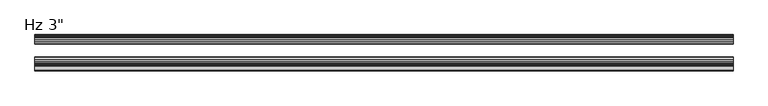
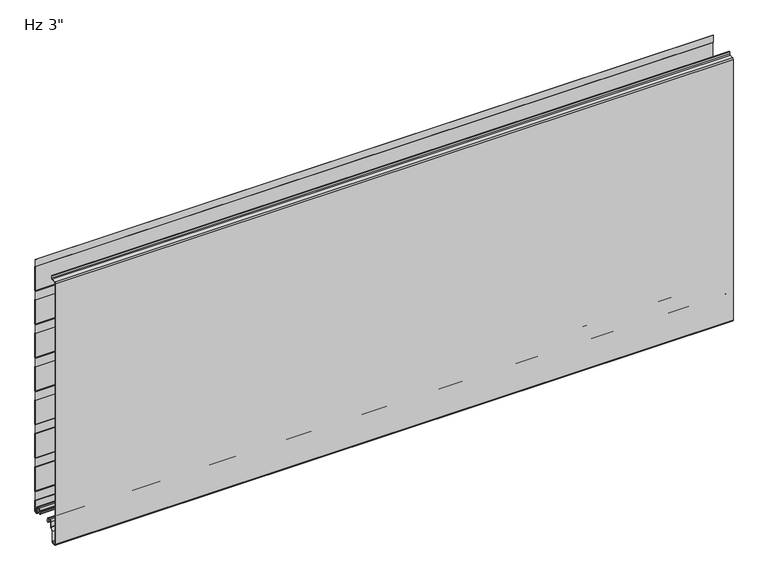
"""IFC4 building model written with IfcOpenShell, lengths in millimetres: plate geometry."""

from ifc_helpers import new_model, si_unit, point, frame, frame_2d, origin, place, context, project, spatial, polyline, circle_curve, trimmed, segment, composite_curve, outline, extrude, source, transform, mapped, element, save
from ifc_brep_helpers import plane_surface, cylinder_surface, revolved_surface, advanced_brep


def plate_81654451(model_context):
    return source(origin(), model_context, "Body", "SolidModel", [
        advanced_brep(
        [(-730.0, -17.0015368, 2.0313088), (-730.0, -18.00154, 1.0313116), (-730.0, -19.0015313, 2.0313088), (-730.0, -19.0015314, 6.0315125), (-730.0, -18.0015368, 6.0315125), (-730.0, -18.0015368, 8.7237223), (-730.0, -14.7015411, 12.023718), (-730.0, -10.3015499, 12.023718), (-730.0, -7.0015544, 8.7237225), (-730.0, -7.0015544, -1.6962564), (-730.0, -5.2315602, -3.4662506), (-730.0, -1.0000126, -3.4662506), (-730.0, -1.0000126, 21.034026), (-730.0, -2.2002516, 22.4196686), (-730.0, -2.2002516, 41.7948349), (-730.0, -1.0000209, 43.1804679), (-730.0, -1.0000209, 97.2338833), (-730.0, -2.2002516, 98.6195162), (-730.0, -2.2002516, 117.9946825), (-730.0, -1.0000209, 119.3803155), (-730.0, -1.0000209, 173.4337309), (-730.0, -2.2002516, 174.8193638), (-730.0, -2.2002516, 194.1945301), (-730.0, -1.0000209, 195.5801631), (-730.0, -1.0000209, 249.6335785), (-730.0, -2.2002516, 251.0192114), (-730.0, -2.2002516, 270.3943777), (-730.0, -1.0000209, 271.7800107), (-730.0, -1.0000209, 325.8334261), (-730.0, -2.2002516, 327.219059), (-730.0, -2.2002516, 346.5942253), (-730.0, -1.0000209, 347.9798583), (-730.0, -1.0000209, 402.0332737), (-730.0, -2.2002516, 403.4189066), (-730.0, -2.2002516, 422.7940729), (-730.0, -1.0000209, 424.1797059), (-730.0, -1.0000209, 478.2331213), (-730.0, -2.2002516, 479.6187542), (-730.0, -2.2002516, 498.9939205), (-730.0, -1.0000209, 500.3795535), (-730.0, -1.0000209, 554.4329689), (-730.0, -2.2002516, 555.8186018), (-730.0, -2.2002516, 571.2), (-730.0, -1.2002516, 571.2), (-730.0, -1.2002516, 556.1914823), (-730.0, -0.3418094, 555.2004346), (-730.0, -2.09e-05, 554.2838177), (-730.0, -2.09e-05, 500.5287046), (-730.0, -0.3418094, 499.6120877), (-730.0, -1.2002516, 498.6210401), (-730.0, -1.2002516, 479.9916347), (-730.0, -0.3418094, 479.000587), (-730.0, -2.09e-05, 478.0839701), (-730.0, -2.09e-05, 424.328857), (-730.0, -0.3418094, 423.4122401), (-730.0, -1.2002516, 422.4211925), (-730.0, -1.2002516, 403.7917871), (-730.0, -0.3418094, 402.8007394), (-730.0, -2.09e-05, 401.8841225), (-730.0, -2.09e-05, 348.1290094), (-730.0, -0.3418094, 347.2123925), (-730.0, -1.2002516, 346.2213449), (-730.0, -1.2002516, 327.5919395), (-730.0, -0.3418094, 326.6008918), (-730.0, -2.09e-05, 325.6842749), (-730.0, -2.09e-05, 271.9291618), (-730.0, -0.3418094, 271.0125449), (-730.0, -1.2002516, 270.0214973), (-730.0, -1.2002516, 251.3920919), (-730.0, -0.3418094, 250.4010442), (-730.0, -2.09e-05, 249.4844273), (-730.0, -2.09e-05, 195.7293142), (-730.0, -0.3418094, 194.8126973), (-730.0, -1.2002516, 193.8216497), (-730.0, -1.2002516, 175.1922443), (-730.0, -0.3418094, 174.2011966), (-730.0, -2.09e-05, 173.2845797), (-730.0, -2.09e-05, 119.5294666), (-730.0, -0.3418094, 118.6128497), (-730.0, -1.2002516, 117.6218021), (-730.0, -1.2002516, 98.9923967), (-730.0, -0.3418094, 98.001349), (-730.0, -2.09e-05, 97.0847321), (-730.0, -2.09e-05, 43.329619), (-730.0, -0.3418094, 42.4130021), (-730.0, -1.2002516, 41.4219545), (-730.0, -1.2002516, 22.7925491), (-730.0, -0.3418094, 21.8015014), (-730.0, -2.09e-05, 20.8847931), (-730.0, -1.26e-05, -3.0662545), (-730.0, -1.4000087, -4.4662506), (-730.0, -5.2315602, -4.4662506), (-730.0, -8.0015544, -1.6962564), (-730.0, -8.0015544, 8.7237225), (-730.0, -10.3015499, 11.023718), (-730.0, -14.7015411, 11.023718), (-730.0, -17.0015368, 8.7237223), (730.0, -17.0015368, 2.0313088), (730.0, -17.0015368, 8.7237223), (730.0, -14.7015411, 11.023718), (730.0, -10.3015499, 11.023718), (730.0, -8.0015544, 8.7237225), (730.0, -8.0015544, -1.6962564), (730.0, -5.2315602, -4.4662506), (730.0, -1.4000087, -4.4662506), (730.0, -1.26e-05, -3.0662545), (730.0, -1.26e-05, 20.8848845), (730.0, -0.3418094, 21.8015014), (730.0, -1.2002516, 22.7925491), (730.0, -1.2002516, 41.4219545), (730.0, -0.3418094, 42.4130021), (730.0, -2.09e-05, 43.329619), (730.0, -2.09e-05, 97.0847321), (730.0, -0.3418094, 98.001349), (730.0, -1.2002516, 98.9923967), (730.0, -1.2002516, 117.6218021), (730.0, -0.3418094, 118.6128497), (730.0, -2.09e-05, 119.5294666), (730.0, -2.09e-05, 173.2845797), (730.0, -0.3418094, 174.2011966), (730.0, -1.2002516, 175.1922443), (730.0, -1.2002516, 193.8216497), (730.0, -0.3418094, 194.8126973), (730.0, -2.09e-05, 195.7293142), (730.0, -2.09e-05, 249.4844273), (730.0, -0.3418094, 250.4010442), (730.0, -1.2002516, 251.3920919), (730.0, -1.2002516, 270.0214973), (730.0, -0.3418094, 271.0125449), (730.0, -2.09e-05, 271.9291618), (730.0, -2.09e-05, 325.6842749), (730.0, -0.3418094, 326.6008918), (730.0, -1.2002516, 327.5919395), (730.0, -1.2002516, 346.2213449), (730.0, -0.3418094, 347.2123925), (730.0, -2.09e-05, 348.1290094), (730.0, -2.09e-05, 401.8841225), (730.0, -0.3418094, 402.8007394), (730.0, -1.2002516, 403.7917871), (730.0, -1.2002516, 422.4211925), (730.0, -0.3418094, 423.4122401), (730.0, -2.09e-05, 424.328857), (730.0, -2.09e-05, 478.0839701), (730.0, -0.3418094, 479.000587), (730.0, -1.2002516, 479.9916347), (730.0, -1.2002516, 498.6210401), (730.0, -0.3418094, 499.6120877), (730.0, -2.09e-05, 500.5287046), (730.0, -2.09e-05, 554.2838177), (730.0, -0.3418094, 555.2004346), (730.0, -1.2002516, 556.1914823), (730.0, -1.2002516, 571.2), (730.0, -2.2002516, 571.2), (730.0, -2.2002516, 555.8186018), (730.0, -1.0000209, 554.4329689), (730.0, -1.0000209, 500.3795535), (730.0, -2.2002516, 498.9939205), (730.0, -2.2002516, 479.6187542), (730.0, -1.0000209, 478.2331213), (730.0, -1.0000209, 424.1797059), (730.0, -2.2002516, 422.7940729), (730.0, -2.2002516, 403.4189066), (730.0, -1.0000209, 402.0332737), (730.0, -1.0000209, 347.9798583), (730.0, -2.2002516, 346.5942253), (730.0, -2.2002516, 327.219059), (730.0, -1.0000209, 325.8334261), (730.0, -1.0000209, 271.7800107), (730.0, -2.2002516, 270.3943777), (730.0, -2.2002516, 251.0192114), (730.0, -1.0000209, 249.6335785), (730.0, -1.0000209, 195.5801631), (730.0, -2.2002516, 194.1945301), (730.0, -2.2002516, 174.8193638), (730.0, -1.0000209, 173.4337309), (730.0, -1.0000209, 119.3803155), (730.0, -2.2002516, 117.9946825), (730.0, -2.2002516, 98.6195162), (730.0, -1.0000209, 97.2338833), (730.0, -1.0000209, 43.1804679), (730.0, -2.2002516, 41.7948349), (730.0, -2.2002516, 22.4196686), (730.0, -1.0000126, 21.034026), (730.0, -1.0000126, -3.4662506), (730.0, -5.2315602, -3.4662506), (730.0, -7.0015544, -1.6962564), (730.0, -7.0015544, 8.7237225), (730.0, -10.3015499, 12.023718), (730.0, -14.7015411, 12.023718), (730.0, -18.0015368, 8.7237223), (730.0, -18.0015368, 6.0315125), (730.0, -19.0015314, 6.0315125), (730.0, -19.0015314, 2.0313088), (730.0, -18.00154, 1.0313116)],
        [
            (0, 1, circle_curve(frame((-730.0, -18.0015341, 2.0313088), z_axis=(-1.0, 0.0, 0.0), x_axis=(0.0, 0.0, 1.0)), 0.9999973)),
            (1, 2, circle_curve(frame((-730.0, -18.0015341, 2.0313088), z_axis=(-1.0, 0.0, 0.0), x_axis=(0.0, 0.0, 1.0)), 0.9999972)),
            (2, 3),
            (3, 4),
            (4, 5),
            (5, 6, circle_curve(frame((-730.0, -14.7015411, 8.7237223), z_axis=(-1.0, 0.0, 0.0), x_axis=(0.0, 0.0, 1.0)), 3.2999957)),
            (6, 7),
            (7, 8, circle_curve(frame((-730.0, -10.3015499, 8.7237225), z_axis=(-1.0, 0.0, 0.0), x_axis=(0.0, 0.0, 1.0)), 3.2999955)),
            (8, 9),
            (9, 10, circle_curve(frame((-730.0, -5.2315602, -1.6962564), z_axis=(1.0, 0.0, 0.0), x_axis=(0.0, 0.0, 1.0)), 1.7699942)),
            (10, 11),
            (11, 12),
            (12, 13),
            (13, 14),
            (14, 15),
            (15, 16),
            (16, 17),
            (17, 18),
            (18, 19),
            (19, 20),
            (20, 21),
            (21, 22),
            (22, 23),
            (23, 24),
            (24, 25),
            (25, 26),
            (26, 27),
            (27, 28),
            (28, 29),
            (29, 30),
            (30, 31),
            (31, 32),
            (32, 33),
            (33, 34),
            (34, 35),
            (35, 36),
            (36, 37),
            (37, 38),
            (38, 39),
            (39, 40),
            (40, 41),
            (41, 42),
            (42, 43),
            (43, 44),
            (44, 45),
            (45, 46, circle_curve(frame((-730.0, -1.4000181, 554.2838177), z_axis=(-1.0, 0.0, 0.0), x_axis=(0.0, 0.0, 1.0)), 1.3999972)),
            (46, 47),
            (47, 48, circle_curve(frame((-730.0, -1.4000181, 500.5287046), z_axis=(-1.0, 0.0, 0.0), x_axis=(0.0, 0.0, 1.0)), 1.3999972)),
            (48, 49),
            (49, 50),
            (50, 51),
            (51, 52, circle_curve(frame((-730.0, -1.4000181, 478.0839701), z_axis=(-1.0, 0.0, 0.0), x_axis=(0.0, 0.0, 1.0)), 1.3999972)),
            (52, 53),
            (53, 54, circle_curve(frame((-730.0, -1.4000181, 424.328857), z_axis=(-1.0, 0.0, 0.0), x_axis=(0.0, 0.0, 1.0)), 1.3999972)),
            (54, 55),
            (55, 56),
            (56, 57),
            (57, 58, circle_curve(frame((-730.0, -1.4000181, 401.8841225), z_axis=(-1.0, 0.0, 0.0), x_axis=(0.0, 0.0, 1.0)), 1.3999972)),
            (58, 59),
            (59, 60, circle_curve(frame((-730.0, -1.4000181, 348.1290094), z_axis=(-1.0, 0.0, 0.0), x_axis=(0.0, 0.0, 1.0)), 1.3999972)),
            (60, 61),
            (61, 62),
            (62, 63),
            (63, 64, circle_curve(frame((-730.0, -1.4000181, 325.6842749), z_axis=(-1.0, 0.0, 0.0), x_axis=(0.0, 0.0, 1.0)), 1.3999972)),
            (64, 65),
            (65, 66, circle_curve(frame((-730.0, -1.4000181, 271.9291618), z_axis=(-1.0, 0.0, 0.0), x_axis=(0.0, 0.0, 1.0)), 1.3999972)),
            (66, 67),
            (67, 68),
            (68, 69),
            (69, 70, circle_curve(frame((-730.0, -1.4000181, 249.4844273), z_axis=(-1.0, 0.0, 0.0), x_axis=(0.0, 0.0, 1.0)), 1.3999972)),
            (70, 71),
            (71, 72, circle_curve(frame((-730.0, -1.4000181, 195.7293142), z_axis=(-1.0, 0.0, 0.0), x_axis=(0.0, 0.0, 1.0)), 1.3999972)),
            (72, 73),
            (73, 74),
            (74, 75),
            (75, 76, circle_curve(frame((-730.0, -1.4000181, 173.2845797), z_axis=(-1.0, 0.0, 0.0), x_axis=(0.0, 0.0, 1.0)), 1.3999972)),
            (76, 77),
            (77, 78, circle_curve(frame((-730.0, -1.4000181, 119.5294666), z_axis=(-1.0, 0.0, 0.0), x_axis=(0.0, 0.0, 1.0)), 1.3999972)),
            (78, 79),
            (79, 80),
            (80, 81),
            (81, 82, circle_curve(frame((-730.0, -1.4000181, 97.0847321), z_axis=(-1.0, 0.0, 0.0), x_axis=(0.0, 0.0, 1.0)), 1.3999972)),
            (82, 83),
            (83, 84, circle_curve(frame((-730.0, -1.4000181, 43.329619), z_axis=(-1.0, 0.0, 0.0), x_axis=(0.0, 0.0, 1.0)), 1.3999972)),
            (84, 85),
            (85, 86),
            (86, 87),
            (87, 88, circle_curve(frame((-730.0, -1.4000181, 20.8848845), z_axis=(-1.0, 0.0, 0.0), x_axis=(0.0, 0.0, 1.0)), 1.3999972)),
            (88, 89),
            (89, 90, circle_curve(frame((-730.0, -1.4000087, -3.0662545), z_axis=(-1.0, 0.0, 0.0), x_axis=(0.0, 0.0, 1.0)), 1.3999962)),
            (90, 91),
            (91, 92, circle_curve(frame((-730.0, -5.2315602, -1.6962564), z_axis=(-1.0, 0.0, 0.0), x_axis=(0.0, 0.0, 1.0)), 2.7699942)),
            (92, 93),
            (93, 94, circle_curve(frame((-730.0, -10.3015499, 8.7237225), z_axis=(1.0, 0.0, 0.0), x_axis=(0.0, 0.0, 1.0)), 2.2999955)),
            (94, 95),
            (95, 96, circle_curve(frame((-730.0, -14.7015411, 8.7237223), z_axis=(1.0, 0.0, 0.0), x_axis=(0.0, 0.0, 1.0)), 2.2999957)),
            (96, 0),
            (97, 98),
            (98, 99, circle_curve(frame((730.0, -14.7015411, 8.7237223), z_axis=(-1.0, 0.0, 0.0), x_axis=(0.0, 0.0, 1.0)), 2.2999957)),
            (99, 100),
            (100, 101, circle_curve(frame((730.0, -10.3015499, 8.7237225), z_axis=(-1.0, 0.0, 0.0), x_axis=(0.0, 0.0, 1.0)), 2.2999955)),
            (101, 102),
            (102, 103, circle_curve(frame((730.0, -5.2315602, -1.6962564), z_axis=(1.0, 0.0, 0.0), x_axis=(0.0, 0.0, 1.0)), 2.7699942)),
            (103, 104),
            (104, 105, circle_curve(frame((730.0, -1.4000087, -3.0662545), z_axis=(1.0, 0.0, 0.0), x_axis=(0.0, 0.0, 1.0)), 1.3999962)),
            (105, 106),
            (106, 107, circle_curve(frame((730.0, -1.4000181, 20.8848845), z_axis=(1.0, 0.0, 0.0), x_axis=(0.0, 0.0, 1.0)), 1.3999972)),
            (107, 108),
            (108, 109),
            (109, 110),
            (110, 111, circle_curve(frame((730.0, -1.4000181, 43.329619), z_axis=(1.0, 0.0, 0.0), x_axis=(0.0, 0.0, 1.0)), 1.3999972)),
            (111, 112),
            (112, 113, circle_curve(frame((730.0, -1.4000181, 97.0847321), z_axis=(1.0, 0.0, 0.0), x_axis=(0.0, 0.0, 1.0)), 1.3999972)),
            (113, 114),
            (114, 115),
            (115, 116),
            (116, 117, circle_curve(frame((730.0, -1.4000181, 119.5294666), z_axis=(1.0, 0.0, 0.0), x_axis=(0.0, 0.0, 1.0)), 1.3999972)),
            (117, 118),
            (118, 119, circle_curve(frame((730.0, -1.4000181, 173.2845797), z_axis=(1.0, 0.0, 0.0), x_axis=(0.0, 0.0, 1.0)), 1.3999972)),
            (119, 120),
            (120, 121),
            (121, 122),
            (122, 123, circle_curve(frame((730.0, -1.4000181, 195.7293142), z_axis=(1.0, 0.0, 0.0), x_axis=(0.0, 0.0, 1.0)), 1.3999972)),
            (123, 124),
            (124, 125, circle_curve(frame((730.0, -1.4000181, 249.4844273), z_axis=(1.0, 0.0, 0.0), x_axis=(0.0, 0.0, 1.0)), 1.3999972)),
            (125, 126),
            (126, 127),
            (127, 128),
            (128, 129, circle_curve(frame((730.0, -1.4000181, 271.9291618), z_axis=(1.0, 0.0, 0.0), x_axis=(0.0, 0.0, 1.0)), 1.3999972)),
            (129, 130),
            (130, 131, circle_curve(frame((730.0, -1.4000181, 325.6842749), z_axis=(1.0, 0.0, 0.0), x_axis=(0.0, 0.0, 1.0)), 1.3999972)),
            (131, 132),
            (132, 133),
            (133, 134),
            (134, 135, circle_curve(frame((730.0, -1.4000181, 348.1290094), z_axis=(1.0, 0.0, 0.0), x_axis=(0.0, 0.0, 1.0)), 1.3999972)),
            (135, 136),
            (136, 137, circle_curve(frame((730.0, -1.4000181, 401.8841225), z_axis=(1.0, 0.0, 0.0), x_axis=(0.0, 0.0, 1.0)), 1.3999972)),
            (137, 138),
            (138, 139),
            (139, 140),
            (140, 141, circle_curve(frame((730.0, -1.4000181, 424.328857), z_axis=(1.0, 0.0, 0.0), x_axis=(0.0, 0.0, 1.0)), 1.3999972)),
            (141, 142),
            (142, 143, circle_curve(frame((730.0, -1.4000181, 478.0839701), z_axis=(1.0, 0.0, 0.0), x_axis=(0.0, 0.0, 1.0)), 1.3999972)),
            (143, 144),
            (144, 145),
            (145, 146),
            (146, 147, circle_curve(frame((730.0, -1.4000181, 500.5287046), z_axis=(1.0, 0.0, 0.0), x_axis=(0.0, 0.0, 1.0)), 1.3999972)),
            (147, 148),
            (148, 149, circle_curve(frame((730.0, -1.4000181, 554.2838177), z_axis=(1.0, 0.0, 0.0), x_axis=(0.0, 0.0, 1.0)), 1.3999972)),
            (149, 150),
            (150, 151),
            (151, 152),
            (152, 153),
            (153, 154),
            (154, 155),
            (155, 156),
            (156, 157),
            (157, 158),
            (158, 159),
            (159, 160),
            (160, 161),
            (161, 162),
            (162, 163),
            (163, 164),
            (164, 165),
            (165, 166),
            (166, 167),
            (167, 168),
            (168, 169),
            (169, 170),
            (170, 171),
            (171, 172),
            (172, 173),
            (173, 174),
            (174, 175),
            (175, 176),
            (176, 177),
            (177, 178),
            (178, 179),
            (179, 180),
            (180, 181),
            (181, 182),
            (182, 183),
            (183, 184),
            (184, 185, circle_curve(frame((730.0, -5.2315602, -1.6962564), z_axis=(-1.0, 0.0, 0.0), x_axis=(0.0, 0.0, 1.0)), 1.7699942)),
            (185, 186),
            (186, 187, circle_curve(frame((730.0, -10.3015499, 8.7237225), z_axis=(1.0, 0.0, 0.0), x_axis=(0.0, 0.0, 1.0)), 3.2999955)),
            (187, 188),
            (188, 189, circle_curve(frame((730.0, -14.7015411, 8.7237223), z_axis=(1.0, 0.0, 0.0), x_axis=(0.0, 0.0, 1.0)), 3.2999957)),
            (189, 190),
            (190, 191),
            (191, 192),
            (192, 193, circle_curve(frame((730.0, -18.0015341, 2.0313088), z_axis=(1.0, 0.0, 0.0), x_axis=(0.0, 0.0, 1.0)), 0.9999972)),
            (193, 97, circle_curve(frame((730.0, -18.0015341, 2.0313088), z_axis=(1.0, 0.0, 0.0), x_axis=(0.0, 0.0, 1.0)), 0.9999973)),
            (96, 98),
            (97, 0),
            (95, 99),
            (94, 100),
            (93, 101),
            (92, 102),
            (91, 103),
            (90, 104),
            (89, 105),
            (88, 106),
            (70, 124),
            (123, 71),
            (87, 107),
            (86, 108),
            (85, 109),
            (83, 111),
            (110, 84),
            (81, 113),
            (112, 82),
            (66, 128),
            (127, 67),
            (122, 72),
            (121, 73),
            (76, 118),
            (117, 77),
            (69, 125),
            (68, 126),
            (65, 129),
            (116, 78),
            (79, 115),
            (114, 80),
            (75, 119),
            (74, 120),
            (2, 192),
            (191, 3),
            (1, 193),
            (64, 130),
            (63, 131),
            (62, 132),
            (61, 133),
            (60, 134),
            (59, 135),
            (58, 136),
            (31, 163),
            (162, 32),
            (30, 164),
            (29, 165),
            (28, 166),
            (27, 167),
            (26, 168),
            (25, 169),
            (24, 170),
            (23, 171),
            (22, 172),
            (21, 173),
            (20, 174),
            (19, 175),
            (18, 176),
            (17, 177),
            (16, 178),
            (15, 179),
            (14, 180),
            (13, 181),
            (12, 182),
            (11, 183),
            (10, 184),
            (9, 185),
            (8, 186),
            (7, 187),
            (6, 188),
            (5, 189),
            (4, 190),
            (42, 152),
            (151, 43),
            (57, 137),
            (56, 138),
            (55, 139),
            (54, 140),
            (53, 141),
            (52, 142),
            (51, 143),
            (50, 144),
            (49, 145),
            (48, 146),
            (47, 147),
            (46, 148),
            (45, 149),
            (44, 150),
            (41, 153),
            (40, 154),
            (39, 155),
            (38, 156),
            (37, 157),
            (36, 158),
            (35, 159),
            (34, 160),
            (33, 161),
        ],
        [
            plane_surface(frame((-730.0, -2.09e-05, 304.8), z_axis=(-1.0, 0.0, 0.0), x_axis=(0.0, 1.0, 0.0))),
            plane_surface(frame((730.0, -2.09e-05, 304.8), z_axis=(1.0, 0.0, 0.0), x_axis=(0.0, 1.0, 0.0))),
            plane_surface(frame((-730.0, -17.0015368, 2.0313088), z_axis=(0.0, 1.0, 0.0), x_axis=(1.0, 0.0, 0.0))),
            revolved_surface(polyline([(730.0, -14.7015411, 11.023718), (-730.0, -14.7015411, 11.023718)]), (-730.0, -14.7015411, 8.7237223), (1.0, 0.0, 0.0)),
            plane_surface(frame((-730.0, -14.7015411, 11.023718), z_axis=(0.0, 0.0, -1.0), x_axis=(1.0, 0.0, 0.0))),
            revolved_surface(polyline([(730.0, -10.3015499, 11.023717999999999), (-730.0, -10.3015499, 11.023717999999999)]), (-730.0, -10.3015499, 8.7237225), (1.0, 0.0, 0.0)),
            plane_surface(frame((-730.0, -8.0015544, 8.7237225), z_axis=(0.0, -1.0, 0.0), x_axis=(1.0, 0.0, 0.0))),
            cylinder_surface(frame((-730.0, -5.2315602, -1.6962564), z_axis=(-1.0, 0.0, 0.0), x_axis=(0.0, 0.0, 1.0)), 2.7699942),
            plane_surface(frame((-730.0, -5.2315602, -4.4662506), z_axis=(0.0, 0.0, -1.0), x_axis=(1.0, 0.0, 0.0))),
            cylinder_surface(frame((-730.0, -1.4000087, -3.0662545), z_axis=(-1.0, 0.0, 0.0), x_axis=(0.0, 0.0, 1.0)), 1.3999962),
            plane_surface(frame((-730.0, -1.26e-05, -3.0662545), z_axis=(0.0, 1.0, 0.0), x_axis=(1.0, 0.0, 0.0))),
            plane_surface(frame((-730.0, -2.09e-05, 195.7293142), z_axis=(0.0, 1.0, 0.0), x_axis=(1.0, 0.0, 0.0))),
            cylinder_surface(frame((-730.0, -1.4000181, 20.8848845), z_axis=(-1.0, 0.0, 0.0), x_axis=(0.0, 0.0, 1.0)), 1.3999972),
            plane_surface(frame((-730.0, -0.3418094, 21.8015014), z_axis=(0.0, 0.755864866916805, 0.6547276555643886), x_axis=(1.0, 0.0, 0.0))),
            plane_surface(frame((-730.0, -1.2002516, 32.1072518), z_axis=(0.0, 1.0, 0.0), x_axis=(1.0, 0.0, 0.0))),
            cylinder_surface(frame((-730.0, -1.4000181, 43.329619), z_axis=(-1.0, 0.0, 0.0), x_axis=(0.0, 0.0, 1.0)), 1.3999972),
            plane_surface(frame((-730.0, -1.2002516, 41.4219545), z_axis=(0.0, 0.755864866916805, -0.6547276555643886), x_axis=(1.0, 0.0, 0.0))),
            cylinder_surface(frame((-730.0, -1.4000181, 97.0847321), z_axis=(-1.0, 0.0, 0.0), x_axis=(0.0, 0.0, 1.0)), 1.3999972),
            plane_surface(frame((-730.0, -1.2002516, 270.0214973), z_axis=(0.0, 0.755864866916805, -0.6547276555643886), x_axis=(1.0, 0.0, 0.0))),
            cylinder_surface(frame((-730.0, -1.4000181, 195.7293142), z_axis=(-1.0, 0.0, 0.0), x_axis=(0.0, 0.0, 1.0)), 1.3999972),
            plane_surface(frame((-730.0, -1.2002516, 193.8216497), z_axis=(0.0, 0.755864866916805, -0.6547276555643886), x_axis=(1.0, 0.0, 0.0))),
            plane_surface(frame((-730.0, -2.09e-05, 119.5294666), z_axis=(0.0, 1.0, 0.0), x_axis=(1.0, 0.0, 0.0))),
            cylinder_surface(frame((-730.0, -1.4000181, 249.4844273), z_axis=(-1.0, 0.0, 0.0), x_axis=(0.0, 0.0, 1.0)), 1.3999972),
            plane_surface(frame((-730.0, -0.3418094, 250.4010442), z_axis=(0.0, 0.755864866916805, 0.6547276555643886), x_axis=(1.0, 0.0, 0.0))),
            plane_surface(frame((-730.0, -1.2002516, 260.7067946), z_axis=(0.0, 1.0, 0.0), x_axis=(1.0, 0.0, 0.0))),
            cylinder_surface(frame((-730.0, -1.4000181, 271.9291618), z_axis=(-1.0, 0.0, 0.0), x_axis=(0.0, 0.0, 1.0)), 1.3999972),
            cylinder_surface(frame((-730.0, -1.4000181, 119.5294666), z_axis=(-1.0, 0.0, 0.0), x_axis=(0.0, 0.0, 1.0)), 1.3999972),
            plane_surface(frame((-730.0, -1.2002516, 108.3070994), z_axis=(0.0, 1.0, 0.0), x_axis=(1.0, 0.0, 0.0))),
            plane_surface(frame((-730.0, -0.3418094, 98.001349), z_axis=(0.0, 0.755864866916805, 0.6547276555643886), x_axis=(1.0, 0.0, 0.0))),
            plane_surface(frame((-730.0, -1.2002516, 117.6218021), z_axis=(0.0, 0.755864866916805, -0.6547276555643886), x_axis=(1.0, 0.0, 0.0))),
            plane_surface(frame((-730.0, -2.09e-05, 43.329619), z_axis=(0.0, 1.0, 0.0), x_axis=(1.0, 0.0, 0.0))),
            cylinder_surface(frame((-730.0, -1.4000181, 173.2845797), z_axis=(-1.0, 0.0, 0.0), x_axis=(0.0, 0.0, 1.0)), 1.3999972),
            plane_surface(frame((-730.0, -0.3418094, 174.2011966), z_axis=(0.0, 0.755864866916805, 0.6547276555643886), x_axis=(1.0, 0.0, 0.0))),
            plane_surface(frame((-730.0, -1.2002516, 184.506947), z_axis=(0.0, 1.0, 0.0), x_axis=(1.0, 0.0, 0.0))),
            plane_surface(frame((-730.0, -19.0015314, 6.0315125), z_axis=(0.0, -1.0, 0.0), x_axis=(1.0, 0.0, 0.0))),
            cylinder_surface(frame((-730.0, -18.0015341, 2.0313088), z_axis=(-1.0, 0.0, 0.0), x_axis=(0.0, 0.0, 1.0)), 0.9999972),
            cylinder_surface(frame((-730.0, -18.0015341, 2.0313088), z_axis=(-1.0, 0.0, 0.0), x_axis=(0.0, 0.0, 1.0)), 0.9999973),
            plane_surface(frame((-730.0, -2.09e-05, 271.9291618), z_axis=(0.0, 1.0, 0.0), x_axis=(1.0, 0.0, 0.0))),
            cylinder_surface(frame((-730.0, -1.4000181, 325.6842749), z_axis=(-1.0, 0.0, 0.0), x_axis=(0.0, 0.0, 1.0)), 1.3999972),
            plane_surface(frame((-730.0, -0.3418094, 326.6008918), z_axis=(0.0, 0.755864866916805, 0.6547276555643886), x_axis=(1.0, 0.0, 0.0))),
            plane_surface(frame((-730.0, -1.2002516, 336.9066422), z_axis=(0.0, 1.0, 0.0), x_axis=(1.0, 0.0, 0.0))),
            plane_surface(frame((-730.0, -1.2002516, 346.2213449), z_axis=(0.0, 0.755864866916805, -0.6547276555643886), x_axis=(1.0, 0.0, 0.0))),
            cylinder_surface(frame((-730.0, -1.4000181, 348.1290094), z_axis=(-1.0, 0.0, 0.0), x_axis=(0.0, 0.0, 1.0)), 1.3999972),
            plane_surface(frame((-730.0, -2.09e-05, 348.1290094), z_axis=(0.0, 1.0, 0.0), x_axis=(1.0, 0.0, 0.0))),
            plane_surface(frame((-730.0, -1.0000209, 402.0332737), z_axis=(0.0, -1.0, 0.0), x_axis=(1.0, 0.0, 0.0))),
            plane_surface(frame((-730.0, -1.0000209, 347.9798583), z_axis=(0.0, -0.755864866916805, 0.6547276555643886), x_axis=(1.0, 0.0, 0.0))),
            plane_surface(frame((-730.0, -2.2002516, 346.5942253), z_axis=(0.0, -1.0, 0.0), x_axis=(1.0, 0.0, 0.0))),
            plane_surface(frame((-730.0, -2.2002516, 327.219059), z_axis=(0.0, -0.755864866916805, -0.6547276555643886), x_axis=(1.0, 0.0, 0.0))),
            plane_surface(frame((-730.0, -1.0000209, 325.8334261), z_axis=(0.0, -1.0, 0.0), x_axis=(1.0, 0.0, 0.0))),
            plane_surface(frame((-730.0, -1.0000209, 271.7800107), z_axis=(0.0, -0.755864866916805, 0.6547276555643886), x_axis=(1.0, 0.0, 0.0))),
            plane_surface(frame((-730.0, -2.2002516, 270.3943777), z_axis=(0.0, -1.0, 0.0), x_axis=(1.0, 0.0, 0.0))),
            plane_surface(frame((-730.0, -2.2002516, 251.0192114), z_axis=(0.0, -0.755864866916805, -0.6547276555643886), x_axis=(1.0, 0.0, 0.0))),
            plane_surface(frame((-730.0, -1.0000209, 249.6335785), z_axis=(0.0, -1.0, 0.0), x_axis=(1.0, 0.0, 0.0))),
            plane_surface(frame((-730.0, -1.0000209, 195.5801631), z_axis=(0.0, -0.755864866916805, 0.6547276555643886), x_axis=(1.0, 0.0, 0.0))),
            plane_surface(frame((-730.0, -2.2002516, 194.1945301), z_axis=(0.0, -1.0, 0.0), x_axis=(1.0, 0.0, 0.0))),
            plane_surface(frame((-730.0, -2.2002516, 174.8193638), z_axis=(0.0, -0.755864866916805, -0.6547276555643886), x_axis=(1.0, 0.0, 0.0))),
            plane_surface(frame((-730.0, -1.0000209, 173.4337309), z_axis=(0.0, -1.0, 0.0), x_axis=(1.0, 0.0, 0.0))),
            plane_surface(frame((-730.0, -1.0000209, 119.3803155), z_axis=(0.0, -0.755864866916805, 0.6547276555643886), x_axis=(1.0, 0.0, 0.0))),
            plane_surface(frame((-730.0, -2.2002516, 117.9946825), z_axis=(0.0, -1.0, 0.0), x_axis=(1.0, 0.0, 0.0))),
            plane_surface(frame((-730.0, -2.2002516, 98.6195162), z_axis=(0.0, -0.755864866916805, -0.6547276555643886), x_axis=(1.0, 0.0, 0.0))),
            plane_surface(frame((-730.0, -1.0000209, 97.2338833), z_axis=(0.0, -1.0, 0.0), x_axis=(1.0, 0.0, 0.0))),
            plane_surface(frame((-730.0, -1.0000209, 43.1804679), z_axis=(0.0, -0.755864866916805, 0.6547276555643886), x_axis=(1.0, 0.0, 0.0))),
            plane_surface(frame((-730.0, -2.2002516, 41.7948349), z_axis=(0.0, -1.0, 0.0), x_axis=(1.0, 0.0, 0.0))),
            plane_surface(frame((-730.0, -2.2002516, 22.4196686), z_axis=(0.0, -0.755864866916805, -0.6547276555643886), x_axis=(1.0, 0.0, 0.0))),
            plane_surface(frame((-730.0, -1.0000126, 21.034026), z_axis=(0.0, -1.0, 0.0), x_axis=(1.0, 0.0, 0.0))),
            plane_surface(frame((-730.0, -1.0000126, -3.4662506), z_axis=(0.0, 0.0, 1.0), x_axis=(1.0, 0.0, 0.0))),
            revolved_surface(polyline([(730.0, -5.2315602, 0.07373779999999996), (-730.0, -5.2315602, 0.07373779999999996)]), (-730.0, -5.2315602, -1.6962564), (1.0, 0.0, 0.0)),
            plane_surface(frame((-730.0, -7.0015544, -1.6962564), z_axis=(0.0, 1.0, 0.0), x_axis=(1.0, 0.0, 0.0))),
            cylinder_surface(frame((-730.0, -10.3015499, 8.7237225), z_axis=(-1.0, 0.0, 0.0), x_axis=(0.0, 0.0, 1.0)), 3.2999955),
            plane_surface(frame((-730.0, -10.3015499, 12.023718), z_axis=(0.0, 0.0, 1.0), x_axis=(1.0, 0.0, 0.0))),
            cylinder_surface(frame((-730.0, -14.7015411, 8.7237223), z_axis=(-1.0, 0.0, 0.0), x_axis=(0.0, 0.0, 1.0)), 3.2999957),
            plane_surface(frame((-730.0, -18.0015368, 8.7237223), z_axis=(0.0, -1.0, 0.0), x_axis=(1.0, 0.0, 0.0))),
            plane_surface(frame((-730.0, -18.0015368, 6.0315125), z_axis=(0.0, 0.0, 1.0), x_axis=(1.0, 0.0, 0.0))),
            plane_surface(frame((730.0, 9.9999791, 571.2), z_axis=(0.0, 0.0, 1.0), x_axis=(-1.0, 0.0, 0.0))),
            cylinder_surface(frame((-730.0, -1.4000181, 401.8841225), z_axis=(-1.0, 0.0, 0.0), x_axis=(0.0, 0.0, 1.0)), 1.3999972),
            plane_surface(frame((-730.0, -0.3418094, 402.8007394), z_axis=(0.0, 0.755864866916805, 0.6547276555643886), x_axis=(1.0, 0.0, 0.0))),
            plane_surface(frame((-730.0, -1.2002516, 413.1064898), z_axis=(0.0, 1.0, 0.0), x_axis=(1.0, 0.0, 0.0))),
            plane_surface(frame((-730.0, -1.2002516, 422.4211925), z_axis=(0.0, 0.755864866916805, -0.6547276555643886), x_axis=(1.0, 0.0, 0.0))),
            cylinder_surface(frame((-730.0, -1.4000181, 424.328857), z_axis=(-1.0, 0.0, 0.0), x_axis=(0.0, 0.0, 1.0)), 1.3999972),
            plane_surface(frame((-730.0, -2.09e-05, 424.328857), z_axis=(0.0, 1.0, 0.0), x_axis=(1.0, 0.0, 0.0))),
            cylinder_surface(frame((-730.0, -1.4000181, 478.0839701), z_axis=(-1.0, 0.0, 0.0), x_axis=(0.0, 0.0, 1.0)), 1.3999972),
            plane_surface(frame((-730.0, -0.3418094, 479.000587), z_axis=(0.0, 0.755864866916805, 0.6547276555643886), x_axis=(1.0, 0.0, 0.0))),
            plane_surface(frame((-730.0, -1.2002516, 489.3063374), z_axis=(0.0, 1.0, 0.0), x_axis=(1.0, 0.0, 0.0))),
            plane_surface(frame((-730.0, -1.2002516, 498.6210401), z_axis=(0.0, 0.755864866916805, -0.6547276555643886), x_axis=(1.0, 0.0, 0.0))),
            cylinder_surface(frame((-730.0, -1.4000181, 500.5287046), z_axis=(-1.0, 0.0, 0.0), x_axis=(0.0, 0.0, 1.0)), 1.3999972),
            plane_surface(frame((-730.0, -2.09e-05, 500.5287046), z_axis=(0.0, 1.0, 0.0), x_axis=(1.0, 0.0, 0.0))),
            cylinder_surface(frame((-730.0, -1.4000181, 554.2838177), z_axis=(-1.0, 0.0, 0.0), x_axis=(0.0, 0.0, 1.0)), 1.3999972),
            plane_surface(frame((-730.0, -0.3418094, 555.2004346), z_axis=(0.0, 0.755864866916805, 0.6547276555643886), x_axis=(1.0, 0.0, 0.0))),
            plane_surface(frame((-730.0, -1.2002516, 565.506185), z_axis=(0.0, 1.0, 0.0), x_axis=(1.0, 0.0, 0.0))),
            plane_surface(frame((-730.0, -2.2002516, 575.1937681), z_axis=(0.0, -1.0, 0.0), x_axis=(1.0, 0.0, 0.0))),
            plane_surface(frame((-730.0, -2.2002516, 555.8186018), z_axis=(0.0, -0.755864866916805, -0.6547276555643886), x_axis=(1.0, 0.0, 0.0))),
            plane_surface(frame((-730.0, -1.0000209, 554.4329689), z_axis=(0.0, -1.0, 0.0), x_axis=(1.0, 0.0, 0.0))),
            plane_surface(frame((-730.0, -1.0000209, 500.3795535), z_axis=(0.0, -0.755864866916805, 0.6547276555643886), x_axis=(1.0, 0.0, 0.0))),
            plane_surface(frame((-730.0, -2.2002516, 498.9939205), z_axis=(0.0, -1.0, 0.0), x_axis=(1.0, 0.0, 0.0))),
            plane_surface(frame((-730.0, -2.2002516, 479.6187542), z_axis=(0.0, -0.755864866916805, -0.6547276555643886), x_axis=(1.0, 0.0, 0.0))),
            plane_surface(frame((-730.0, -1.0000209, 478.2331213), z_axis=(0.0, -1.0, 0.0), x_axis=(1.0, 0.0, 0.0))),
            plane_surface(frame((-730.0, -1.0000209, 424.1797059), z_axis=(0.0, -0.755864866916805, 0.6547276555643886), x_axis=(1.0, 0.0, 0.0))),
            plane_surface(frame((-730.0, -2.2002516, 422.7940729), z_axis=(0.0, -1.0, 0.0), x_axis=(1.0, 0.0, 0.0))),
            plane_surface(frame((-730.0, -2.2002516, 403.4189066), z_axis=(0.0, -0.755864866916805, -0.6547276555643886), x_axis=(1.0, 0.0, 0.0))),
        ],
        [
            (0, [[1, 2, 3, 4, 5, 6, 7, 8, 9, 10, 11, 12, 13, 14, 15, 16, 17, 18, 19, 20, 21, 22, 23, 24, 25, 26, 27, 28, 29, 30, 31, 32, 33, 34, 35, 36, 37, 38, 39, 40, 41, 42, 43, 44, 45, 46, 47, 48, 49, 50, 51, 52, 53, 54, 55, 56, 57, 58, 59, 60, 61, 62, 63, 64, 65, 66, 67, 68, 69, 70, 71, 72, 73, 74, 75, 76, 77, 78, 79, 80, 81, 82, 83, 84, 85, 86, 87, 88, 89, 90, 91, 92, 93, 94, 95, 96, 97]]),
            (1, [[98, 99, 100, 101, 102, 103, 104, 105, 106, 107, 108, 109, 110, 111, 112, 113, 114, 115, 116, 117, 118, 119, 120, 121, 122, 123, 124, 125, 126, 127, 128, 129, 130, 131, 132, 133, 134, 135, 136, 137, 138, 139, 140, 141, 142, 143, 144, 145, 146, 147, 148, 149, 150, 151, 152, 153, 154, 155, 156, 157, 158, 159, 160, 161, 162, 163, 164, 165, 166, 167, 168, 169, 170, 171, 172, 173, 174, 175, 176, 177, 178, 179, 180, 181, 182, 183, 184, 185, 186, 187, 188, 189, 190, 191, 192, 193, 194]]),
            (2, [[195, -98, 196, -97]]),
            (3, [[197, -99, -195, -96]]),
            (4, [[198, -100, -197, -95]]),
            (5, [[199, -101, -198, -94]]),
            (6, [[200, -102, -199, -93]]),
            (7, [[201, -103, -200, -92]]),
            (8, [[202, -104, -201, -91]]),
            (9, [[203, -105, -202, -90]]),
            (10, [[204, -106, -203, -89]]),
            (11, [[205, -124, 206, -71]]),
            (12, [[207, -107, -204, -88]]),
            (13, [[208, -108, -207, -87]]),
            (14, [[209, -109, -208, -86]]),
            (15, [[210, -111, 211, -84]]),
            (16, [[-211, -110, -209, -85]]),
            (17, [[212, -113, 213, -82]]),
            (18, [[214, -128, 215, -67]]),
            (19, [[-206, -123, 216, -72]]),
            (20, [[-216, -122, 217, -73]]),
            (21, [[218, -118, 219, -77]]),
            (22, [[220, -125, -205, -70]]),
            (23, [[221, -126, -220, -69]]),
            (24, [[-215, -127, -221, -68]]),
            (25, [[222, -129, -214, -66]]),
            (26, [[-219, -117, 223, -78]]),
            (27, [[224, -115, 225, -80]]),
            (28, [[-225, -114, -212, -81]]),
            (29, [[-223, -116, -224, -79]]),
            (30, [[-213, -112, -210, -83]]),
            (31, [[226, -119, -218, -76]]),
            (32, [[227, -120, -226, -75]]),
            (33, [[-217, -121, -227, -74]]),
            (34, [[228, -192, 229, -3]]),
            (35, [[230, -193, -228, -2]]),
            (36, [[-196, -194, -230, -1]]),
            (37, [[231, -130, -222, -65]]),
            (38, [[232, -131, -231, -64]]),
            (39, [[233, -132, -232, -63]]),
            (40, [[234, -133, -233, -62]]),
            (41, [[235, -134, -234, -61]]),
            (42, [[236, -135, -235, -60]]),
            (43, [[237, -136, -236, -59]]),
            (44, [[238, -163, 239, -32]]),
            (45, [[240, -164, -238, -31]]),
            (46, [[241, -165, -240, -30]]),
            (47, [[242, -166, -241, -29]]),
            (48, [[243, -167, -242, -28]]),
            (49, [[244, -168, -243, -27]]),
            (50, [[245, -169, -244, -26]]),
            (51, [[246, -170, -245, -25]]),
            (52, [[247, -171, -246, -24]]),
            (53, [[248, -172, -247, -23]]),
            (54, [[249, -173, -248, -22]]),
            (55, [[250, -174, -249, -21]]),
            (56, [[251, -175, -250, -20]]),
            (57, [[252, -176, -251, -19]]),
            (58, [[253, -177, -252, -18]]),
            (59, [[254, -178, -253, -17]]),
            (60, [[255, -179, -254, -16]]),
            (61, [[256, -180, -255, -15]]),
            (62, [[257, -181, -256, -14]]),
            (63, [[258, -182, -257, -13]]),
            (64, [[259, -183, -258, -12]]),
            (65, [[260, -184, -259, -11]]),
            (66, [[261, -185, -260, -10]]),
            (67, [[262, -186, -261, -9]]),
            (68, [[263, -187, -262, -8]]),
            (69, [[264, -188, -263, -7]]),
            (70, [[265, -189, -264, -6]]),
            (71, [[266, -190, -265, -5]]),
            (72, [[-229, -191, -266, -4]]),
            (73, [[267, -152, 268, -43]]),
            (74, [[269, -137, -237, -58]]),
            (75, [[270, -138, -269, -57]]),
            (76, [[271, -139, -270, -56]]),
            (77, [[272, -140, -271, -55]]),
            (78, [[273, -141, -272, -54]]),
            (79, [[274, -142, -273, -53]]),
            (80, [[275, -143, -274, -52]]),
            (81, [[276, -144, -275, -51]]),
            (82, [[277, -145, -276, -50]]),
            (83, [[278, -146, -277, -49]]),
            (84, [[279, -147, -278, -48]]),
            (85, [[280, -148, -279, -47]]),
            (86, [[281, -149, -280, -46]]),
            (87, [[282, -150, -281, -45]]),
            (88, [[-44, -268, -151, -282]]),
            (89, [[-153, -267, -42, 283]]),
            (90, [[284, -154, -283, -41]]),
            (91, [[285, -155, -284, -40]]),
            (92, [[286, -156, -285, -39]]),
            (93, [[287, -157, -286, -38]]),
            (94, [[288, -158, -287, -37]]),
            (95, [[289, -159, -288, -36]]),
            (96, [[290, -160, -289, -35]]),
            (97, [[291, -161, -290, -34]]),
            (98, [[-239, -162, -291, -33]]),
        ],
    ),
        extrude(outline(composite_curve([segment(trimmed(circle_curve(frame_2d((-72.6296517, -32.4521063)), 3.5702393), [point((-72.3183813, -36.0087507))], [point((-76.199891, -32.452104))], False, "CARTESIAN"), True, "CONTINUOUS"), segment(polyline([(-76.199891, -32.452104), (-76.1995114, 561.1384265)]), True, "CONTINUOUS"), segment(trimmed(circle_curve(frame_2d((-73.2495173, 561.1384246)), 2.9499941), [point((-76.1995114, 561.1384265))], [point((-73.5066263, 564.0771931))], False, "CARTESIAN"), True, "CONTINUOUS"), segment(polyline([(-73.5066263, 564.0771931), (-65.0421999, 564.8177344)]), True, "CONTINUOUS"), segment(trimmed(circle_curve(frame_2d((-65.2191257, 566.8400056)), 2.0299959), [point((-65.0421999, 564.8177344))], [point((-63.1917398, 566.9429135))], True, "CARTESIAN"), True, "CONTINUOUS"), segment(polyline([(-63.1917398, 566.9429135), (-63.1917398, 571.2), (-62.1917398, 571.2), (-62.1917398, 566.9657441)]), True, "CONTINUOUS"), segment(trimmed(circle_curve(frame_2d((-65.2191257, 566.8400056)), 3.0299959), [point((-62.1917398, 566.9657441))], [point((-64.9550441, 563.8215397))], False, "CARTESIAN"), True, "CONTINUOUS"), segment(polyline([(-64.9550441, 563.8215397), (-73.4193406, 563.0810097)]), True, "CONTINUOUS"), segment(trimmed(circle_curve(frame_2d((-73.2493874, 561.1384359)), 1.9499941), [point((-73.4193406, 563.0810097))], [point((-75.1993815, 561.1384359))], True, "CARTESIAN"), True, "CONTINUOUS"), segment(polyline([(-75.1993815, 561.1384359), (-75.1993815, -32.509446)]), True, "CONTINUOUS"), segment(trimmed(circle_curve(frame_2d((-72.6297816, -32.4521176)), 2.5702393), [point((-75.1993815, -32.509446))], [point((-72.405696, -35.0125699))], True, "CARTESIAN"), True, "CONTINUOUS"), segment(polyline([(-72.405696, -35.0125699), (-67.4238751, -34.5765709)]), True, "CONTINUOUS"), segment(trimmed(circle_curve(frame_2d((-67.9052657, -31.9198392)), 2.6999926), [point((-67.4238751, -34.5765709))], [point((-65.2052731, -31.9198392))], True, "CARTESIAN"), True, "CONTINUOUS"), segment(polyline([(-65.2052731, -31.9198392), (-65.2052731, -9.8247096), (-59.703202, -4.3226385)]), True, "CONTINUOUS"), segment(trimmed(circle_curve(frame_2d((-60.9052797, -3.1205608)), 1.6999946), [point((-59.703202, -4.3226385))], [point((-59.2052851, -3.1205608))], True, "CARTESIAN"), True, "CONTINUOUS"), segment(polyline([(-59.2052851, -3.1205608), (-59.2052851, 8.6903283)]), True, "CONTINUOUS"), segment(trimmed(circle_curve(frame_2d((-55.8552898, 8.6903283)), 3.3499953), [point((-59.2052851, 8.6903283))], [point((-55.8552898, 12.0403236))], False, "CARTESIAN"), True, "CONTINUOUS"), segment(polyline([(-55.8552898, 12.0403236), (-51.4552986, 12.0403236)]), True, "CONTINUOUS"), segment(trimmed(circle_curve(frame_2d((-51.4552986, 8.6903283)), 3.3499953), [point((-51.4552986, 12.0403236))], [point((-48.1053033, 8.6903283))], False, "CARTESIAN"), True, "CONTINUOUS"), segment(polyline([(-48.1053033, 8.6903283), (-48.1053033, 5.9912173), (-46.7068244, 5.9912173), (-46.7068244, 2.2328239)]), True, "CONTINUOUS"), segment(trimmed(circle_curve(frame_2d((-47.9068211, 2.2313092)), 1.1999976), [point((-46.7068244, 2.2328239))], [point((-47.8762992, 1.0316999))], False, "CARTESIAN"), True, "CONTINUOUS"), segment(trimmed(circle_curve(frame_2d((-47.9068211, 2.2313092)), 1.1999976), [point((-47.8762992, 1.0316999))], [point((-49.1053033, 2.1710221))], False, "CARTESIAN"), True, "CONTINUOUS"), segment(polyline([(-49.1053033, 2.1710221), (-49.1053033, 8.6903283)]), True, "CONTINUOUS"), segment(trimmed(circle_curve(frame_2d((-51.4552986, 8.6903283)), 2.3499953), [point((-49.1053033, 8.6903283))], [point((-51.4552986, 11.0403236))], True, "CARTESIAN"), True, "CONTINUOUS"), segment(polyline([(-51.4552986, 11.0403236), (-55.8552898, 11.0403236)]), True, "CONTINUOUS"), segment(trimmed(circle_curve(frame_2d((-55.8552898, 8.6903283)), 2.3499953), [point((-55.8552898, 11.0403236))], [point((-58.2052851, 8.6903283))], True, "CARTESIAN"), True, "CONTINUOUS"), segment(polyline([(-58.2052851, 8.6903283), (-58.2052851, -3.1205608)]), True, "CONTINUOUS"), segment(trimmed(circle_curve(frame_2d((-60.9052797, -3.1205608)), 2.6999946), [point((-58.2052851, -3.1205608))], [point((-58.9960952, -5.0297453))], False, "CARTESIAN"), True, "CONTINUOUS"), segment(polyline([(-58.9960952, -5.0297453), (-63.8245127, -9.8581627)]), True, "CONTINUOUS"), segment(trimmed(circle_curve(frame_2d((-62.9052757, -10.7773997)), 1.2999974), [point((-63.8245127, -9.8581627))], [point((-64.2052731, -10.7773997))], True, "CARTESIAN"), True, "CONTINUOUS"), segment(polyline([(-64.2052731, -10.7773997), (-64.2052731, -31.9198392)]), True, "CONTINUOUS"), segment(trimmed(circle_curve(frame_2d((-67.9052657, -31.9198392)), 3.6999926), [point((-64.2052731, -31.9198392))], [point((-67.2944646, -35.5690675))], False, "CARTESIAN"), True, "CONTINUOUS"), segment(polyline([(-67.2944646, -35.5690675), (-72.3183813, -36.0087507)]), True, "CONTINUOUS")], self_intersect=False)), frame((-730.0, 0.0, 0.0), z_axis=(1.0, 0.0, 0.0), x_axis=(0.0, 1.0, 0.0)), (0.0, 0.0, 1.0), 1460.0),
    ])


if __name__ == "__main__":
    model = new_model("IFC4")
    model_context = context("Model", 3, world=origin())
    ifc_project = project(units=[si_unit("LENGTHUNIT", "METRE", prefix="MILLI")], contexts=[model_context])
    site = spatial("IfcSite", under=ifc_project)
    building = spatial("IfcBuilding", under=site)
    placement = place(None, origin())
    plate_shape = plate_81654451(model_context)
    element("IfcPlate", 1, ObjectType="KIP-24-Karrier-KP-R19-CP-Hz-FL3-8in_SL : Hz 3\"", at=placement, inside=building, context=model_context, shape_type="MappedRepresentation", body=[
        mapped(plate_shape, transform((0.0, 0.0, 0.0), x_axis=(1.0, 0.0, 0.0), y_axis=(0.0, 1.0, 0.0), z_axis=(0.0, 0.0, 1.0))),
    ])
    save(model, "model.ifc")
